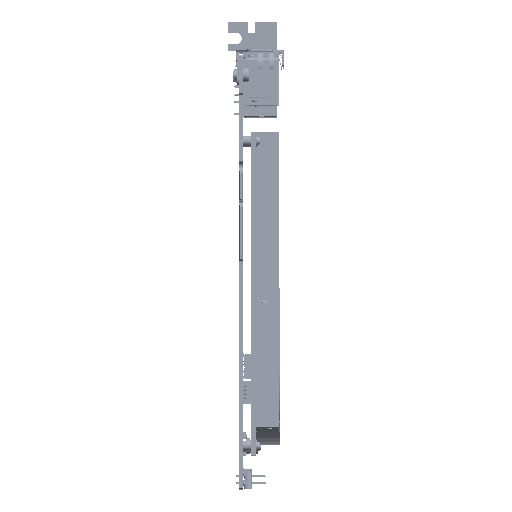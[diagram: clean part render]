
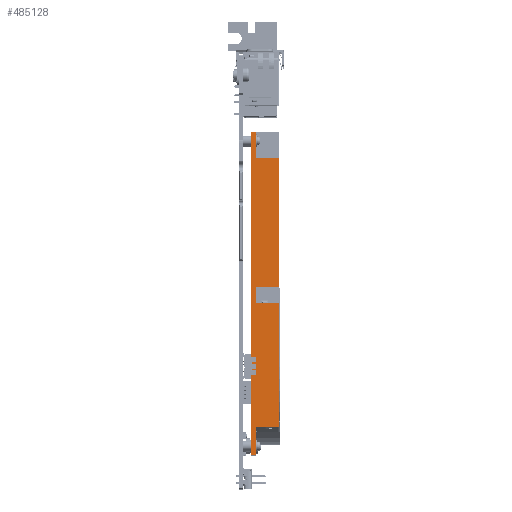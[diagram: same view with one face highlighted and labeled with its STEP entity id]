
A CAD part, top view. The second image highlights one B-rep face of the part: STEP entity #485128.
In plain terms, the highlighted planar face has unit normal (0, 0.003, 1).
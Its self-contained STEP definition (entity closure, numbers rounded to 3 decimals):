
#480609=DIRECTION('',(0.,1.,0.));
#480610=VECTOR('',#480609,2.);
#480611=CARTESIAN_POINT('',(570.51,503.793,532.83));
#480612=LINE('',#480611,#480610);
#480816=DIRECTION('',(1.,0.,0.));
#480817=VECTOR('',#480816,124.845);
#480818=CARTESIAN_POINT('',(445.665,503.793,532.83));
#480819=LINE('',#480818,#480817);
#481242=DIRECTION('',(0.,-1.,0.));
#481243=VECTOR('',#481242,2.);
#481244=CARTESIAN_POINT('',(445.665,505.793,532.83));
#481245=LINE('',#481244,#481243);
#481897=DIRECTION('',(-1.,0.,0.));
#481898=VECTOR('',#481897,10.8);
#481899=CARTESIAN_POINT('',(570.51,505.793,532.83));
#481900=LINE('',#481899,#481898);
#481925=DIRECTION('',(-1.,0.,0.));
#481926=VECTOR('',#481925,10.02);
#481927=CARTESIAN_POINT('',(455.685,505.793,532.83));
#481928=LINE('',#481927,#481926);
#482025=DIRECTION('',(1.,0.,0.));
#482026=VECTOR('',#482025,6.04);
#482027=CARTESIAN_POINT('',(505.67,505.793,532.83));
#482028=LINE('',#482027,#482026);
#482029=DIRECTION('',(0.,1.,0.));
#482030=VECTOR('',#482029,8.6);
#482031=CARTESIAN_POINT('',(511.71,505.793,532.83));
#482032=LINE('',#482031,#482030);
#482041=DIRECTION('',(0.,1.,0.));
#482042=VECTOR('',#482041,8.6);
#482043=CARTESIAN_POINT('',(559.71,505.793,532.83));
#482044=LINE('',#482043,#482042);
#482057=DIRECTION('',(-1.,0.,0.));
#482058=VECTOR('',#482057,48.);
#482059=CARTESIAN_POINT('',(559.71,514.393,532.83));
#482060=LINE('',#482059,#482058);
#482065=DIRECTION('',(0.,-1.,0.));
#482066=VECTOR('',#482065,8.6);
#482067=CARTESIAN_POINT('',(455.685,514.393,532.83));
#482068=LINE('',#482067,#482066);
#482069=DIRECTION('',(0.,1.,0.));
#482070=VECTOR('',#482069,8.6);
#482071=CARTESIAN_POINT('',(505.67,505.793,532.83));
#482072=LINE('',#482071,#482070);
#482081=DIRECTION('',(-1.,0.,0.));
#482082=VECTOR('',#482081,49.985);
#482083=CARTESIAN_POINT('',(505.67,514.393,532.83));
#482084=LINE('',#482083,#482082);
#483013=CARTESIAN_POINT('',(570.51,503.793,532.83));
#483014=VERTEX_POINT('',#483013);
#483015=CARTESIAN_POINT('',(570.51,505.793,532.83));
#483016=VERTEX_POINT('',#483015);
#483211=CARTESIAN_POINT('',(511.71,505.793,532.83));
#483212=VERTEX_POINT('',#483211);
#483213=CARTESIAN_POINT('',(505.67,505.793,532.83));
#483214=VERTEX_POINT('',#483213);
#483219=CARTESIAN_POINT('',(455.685,505.793,532.83));
#483220=VERTEX_POINT('',#483219);
#483221=CARTESIAN_POINT('',(445.665,505.793,532.83));
#483222=VERTEX_POINT('',#483221);
#483235=CARTESIAN_POINT('',(559.71,505.793,532.83));
#483236=VERTEX_POINT('',#483235);
#483253=CARTESIAN_POINT('',(445.665,503.793,532.83));
#483254=VERTEX_POINT('',#483253);
#483507=CARTESIAN_POINT('',(511.71,514.393,532.83));
#483508=VERTEX_POINT('',#483507);
#483509=CARTESIAN_POINT('',(559.71,514.393,532.83));
#483510=VERTEX_POINT('',#483509);
#483511=CARTESIAN_POINT('',(455.685,514.393,532.83));
#483512=VERTEX_POINT('',#483511);
#483513=CARTESIAN_POINT('',(505.67,514.393,532.83));
#483514=VERTEX_POINT('',#483513);
#485103=CARTESIAN_POINT('',(507.697,509.593,532.83));
#485104=DIRECTION('',(0.,0.,1.));
#485105=DIRECTION('',(1.,0.,0.));
#485106=AXIS2_PLACEMENT_3D('',#485103,#485104,#485105);
#485107=PLANE('',#485106);
#485108=ORIENTED_EDGE('',*,*,#484885,.T.);
#485110=ORIENTED_EDGE('',*,*,#485109,.T.);
#485112=ORIENTED_EDGE('',*,*,#485111,.F.);
#485114=ORIENTED_EDGE('',*,*,#485113,.F.);
#485115=ORIENTED_EDGE('',*,*,#484877,.F.);
#485116=ORIENTED_EDGE('',*,*,#483786,.F.);
#485117=ORIENTED_EDGE('',*,*,#483968,.F.);
#485118=ORIENTED_EDGE('',*,*,#484277,.F.);
#485119=ORIENTED_EDGE('',*,*,#484893,.F.);
#485121=ORIENTED_EDGE('',*,*,#485120,.F.);
#485123=ORIENTED_EDGE('',*,*,#485122,.F.);
#485125=ORIENTED_EDGE('',*,*,#485124,.F.);
#485126=EDGE_LOOP('',(#485108,#485110,#485112,#485114,#485115,#485116,#485117,
#485118,#485119,#485121,#485123,#485125));
#485127=FACE_OUTER_BOUND('',#485126,.F.);
#483786=EDGE_CURVE('',#483014,#483016,#480612,.T.);
#483968=EDGE_CURVE('',#483254,#483014,#480819,.T.);
#484277=EDGE_CURVE('',#483222,#483254,#481245,.T.);
#484877=EDGE_CURVE('',#483016,#483236,#481900,.T.);
#484885=EDGE_CURVE('',#483214,#483212,#482028,.T.);
#484893=EDGE_CURVE('',#483220,#483222,#481928,.T.);
#485109=EDGE_CURVE('',#483212,#483508,#482032,.T.);
#485111=EDGE_CURVE('',#483510,#483508,#482060,.T.);
#485113=EDGE_CURVE('',#483236,#483510,#482044,.T.);
#485120=EDGE_CURVE('',#483512,#483220,#482068,.T.);
#485122=EDGE_CURVE('',#483514,#483512,#482084,.T.);
#485124=EDGE_CURVE('',#483214,#483514,#482072,.T.);
#485128=ADVANCED_FACE('',(#485127),#485107,.T.);
